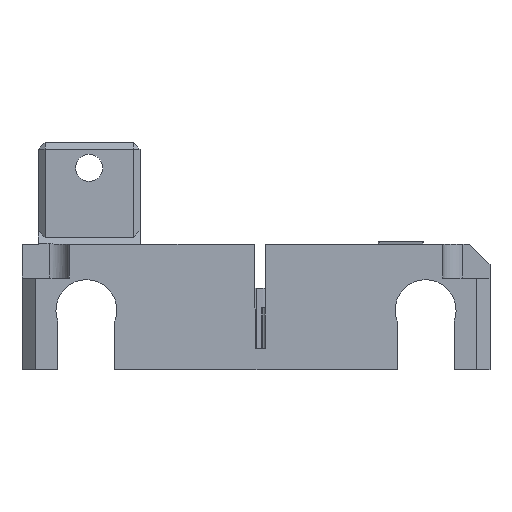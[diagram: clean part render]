
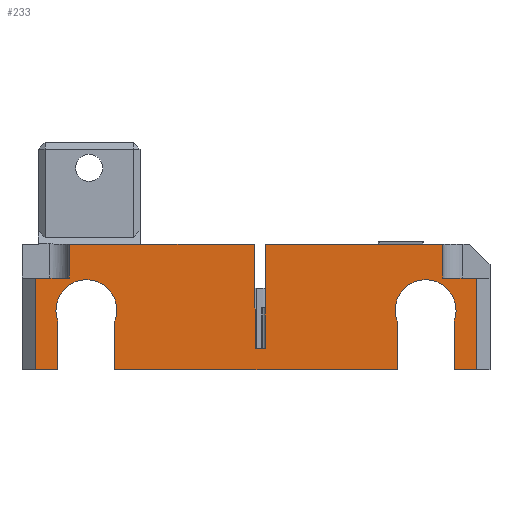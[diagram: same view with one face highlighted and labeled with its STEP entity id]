
A CAD part, left-side view. The second image highlights one B-rep face of the part: STEP entity #233.
In plain terms, the highlighted planar face has unit normal (-1, 0, 0).
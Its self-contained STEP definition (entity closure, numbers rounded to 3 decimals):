
#233=ADVANCED_FACE('',(#4371),#4373,.T.);
#4371=FACE_BOUND('',#4372,.T.);
#4372=EDGE_LOOP('',(#7640,#7641,#7642,#7643,#7644,#7645,#7646,#7647,#7648,#7649,
#7650,#7651,#7652,#7653,#7654,#7655,#7656,#7657,#7658,#7659,#7660,#7661,#7662));
#4373=PLANE('',#4374);
#4374=AXIS2_PLACEMENT_3D('',#4375,#4376,#4377);
#4375=CARTESIAN_POINT('',(-30.,30.47,-15.719));
#4376=DIRECTION('',(-1.,0.,0.));
#4377=DIRECTION('',(0.,-1.,0.));
#7640=ORIENTED_EDGE('',*,*,#10508,.F.);
#7641=ORIENTED_EDGE('',*,*,#10509,.T.);
#7642=ORIENTED_EDGE('',*,*,#10430,.F.);
#7643=ORIENTED_EDGE('',*,*,#10510,.T.);
#7644=ORIENTED_EDGE('',*,*,#10511,.T.);
#7645=ORIENTED_EDGE('',*,*,#10512,.F.);
#7646=ORIENTED_EDGE('',*,*,#10513,.T.);
#7647=ORIENTED_EDGE('',*,*,#10514,.T.);
#7648=ORIENTED_EDGE('',*,*,#10515,.T.);
#7649=ORIENTED_EDGE('',*,*,#10516,.T.);
#7650=ORIENTED_EDGE('',*,*,#10394,.T.);
#7651=ORIENTED_EDGE('',*,*,#10507,.T.);
#7652=ORIENTED_EDGE('',*,*,#10517,.T.);
#7653=ORIENTED_EDGE('',*,*,#10518,.T.);
#7654=ORIENTED_EDGE('',*,*,#10519,.T.);
#7655=ORIENTED_EDGE('',*,*,#10520,.T.);
#7656=ORIENTED_EDGE('',*,*,#10521,.T.);
#7657=ORIENTED_EDGE('',*,*,#10522,.T.);
#7658=ORIENTED_EDGE('',*,*,#10523,.F.);
#7659=ORIENTED_EDGE('',*,*,#10524,.F.);
#7660=ORIENTED_EDGE('',*,*,#10525,.F.);
#7661=ORIENTED_EDGE('',*,*,#10526,.T.);
#7662=ORIENTED_EDGE('',*,*,#10527,.T.);
#10394=EDGE_CURVE('',#11717,#11715,#11718,.T.);
#10430=EDGE_CURVE('',#11784,#11768,#11786,.T.);
#10507=EDGE_CURVE('',#11715,#11920,#11922,.F.);
#10508=EDGE_CURVE('',#11923,#11924,#11925,.F.);
#10509=EDGE_CURVE('',#11923,#11768,#11926,.F.);
#10510=EDGE_CURVE('',#11784,#11927,#11928,.F.);
#10511=EDGE_CURVE('',#11927,#11929,#11930,.T.);
#10512=EDGE_CURVE('',#11931,#11929,#11932,.T.);
#10513=EDGE_CURVE('',#11931,#11933,#11934,.T.);
#10514=EDGE_CURVE('',#11933,#11935,#11936,.F.);
#10515=EDGE_CURVE('',#11935,#11937,#11938,.F.);
#10516=EDGE_CURVE('',#11937,#11717,#11939,.F.);
#10517=EDGE_CURVE('',#11920,#11940,#11941,.F.);
#10518=EDGE_CURVE('',#11940,#11942,#11943,.F.);
#10519=EDGE_CURVE('',#11942,#11944,#11945,.T.);
#10520=EDGE_CURVE('',#11944,#11946,#11947,.T.);
#10521=EDGE_CURVE('',#11946,#11948,#11949,.T.);
#10522=EDGE_CURVE('',#11948,#11950,#11951,.F.);
#10523=EDGE_CURVE('',#11952,#11950,#11953,.T.);
#10524=EDGE_CURVE('',#11954,#11952,#11955,.T.);
#10525=EDGE_CURVE('',#11956,#11954,#11957,.T.);
#10526=EDGE_CURVE('',#11956,#11958,#11959,.F.);
#10527=EDGE_CURVE('',#11958,#11924,#11960,.F.);
#11715=VERTEX_POINT('',#13964);
#11717=VERTEX_POINT('',#13968);
#11718=LINE('',#13969,#13970);
#11768=VERTEX_POINT('',#14077);
#11784=VERTEX_POINT('',#14111);
#11786=LINE('',#14115,#14116);
#11920=VERTEX_POINT('',#14509);
#11922=LINE('',#14513,#14514);
#11923=VERTEX_POINT('',#14516);
#11924=VERTEX_POINT('',#14517);
#11925=LINE('',#14518,#14519);
#11926=LINE('',#14521,#14522);
#11927=VERTEX_POINT('',#14524);
#11928=LINE('',#14525,#14526);
#11929=VERTEX_POINT('',#14528);
#11930=LINE('',#14529,#14530);
#11931=VERTEX_POINT('',#14532);
#11932=LINE('',#14533,#14534);
#11933=VERTEX_POINT('',#14536);
#11934=LINE('',#14537,#14538);
#11935=VERTEX_POINT('',#14540);
#11936=LINE('',#14541,#14542);
#11937=VERTEX_POINT('',#14544);
#11938=CIRCLE('',#14545,4.5);
#11939=LINE('',#14549,#14550);
#11940=VERTEX_POINT('',#14552);
#11941=CIRCLE('',#14553,4.5);
#11942=VERTEX_POINT('',#14557);
#11943=LINE('',#14558,#14559);
#11944=VERTEX_POINT('',#14561);
#11945=LINE('',#14562,#14563);
#11946=VERTEX_POINT('',#14565);
#11947=LINE('',#14566,#14567);
#11948=VERTEX_POINT('',#14569);
#11949=LINE('',#14570,#14571);
#11950=VERTEX_POINT('',#14573);
#11951=LINE('',#14574,#14575);
#11952=VERTEX_POINT('',#14577);
#11953=LINE('',#14578,#14579);
#11954=VERTEX_POINT('',#14581);
#11955=LINE('',#14582,#14583);
#11956=VERTEX_POINT('',#14585);
#11957=LINE('',#14586,#14587);
#11958=VERTEX_POINT('',#14589);
#11959=LINE('',#14590,#14591);
#11960=LINE('',#14593,#14594);
#13964=CARTESIAN_POINT('',(-30.,-24.83,-15.719));
#13968=CARTESIAN_POINT('',(-30.,16.77,-15.719));
#13969=CARTESIAN_POINT('',(-30.,16.77,-15.719));
#13970=VECTOR('',#13971,1.);
#13971=DIRECTION('',(0.,-1.,0.));
#14077=CARTESIAN_POINT('',(-30.,-3.79,2.781));
#14111=CARTESIAN_POINT('',(-30.,23.47,2.781));
#14115=CARTESIAN_POINT('',(-30.,23.47,2.781));
#14116=VECTOR('',#14117,1.);
#14117=DIRECTION('',(0.,-1.,0.));
#14509=CARTESIAN_POINT('',(-30.,-24.83,-8.585));
#14513=CARTESIAN_POINT('',(-30.,-24.83,-8.585));
#14514=VECTOR('',#14515,1.);
#14515=DIRECTION('',(0.,0.,-1.));
#14516=CARTESIAN_POINT('',(-30.,-3.79,-6.619));
#14517=CARTESIAN_POINT('',(-30.,-4.03,-6.859));
#14518=CARTESIAN_POINT('',(-30.,-4.03,-6.859));
#14519=VECTOR('',#14520,1.);
#14520=DIRECTION('',(0.,0.707,0.707));
#14521=CARTESIAN_POINT('',(-30.,-3.79,2.781));
#14522=VECTOR('',#14523,1.);
#14523=DIRECTION('',(0.,0.,-1.));
#14524=CARTESIAN_POINT('',(-30.,23.47,-2.219));
#14525=CARTESIAN_POINT('',(-30.,23.47,-2.219));
#14526=VECTOR('',#14527,1.);
#14527=DIRECTION('',(0.,0.,1.));
#14528=CARTESIAN_POINT('',(-30.,28.47,-2.219));
#14529=CARTESIAN_POINT('',(-30.,23.47,-2.219));
#14530=VECTOR('',#14531,1.);
#14531=DIRECTION('',(0.,1.,0.));
#14532=CARTESIAN_POINT('',(-30.,28.47,-15.719));
#14533=CARTESIAN_POINT('',(-30.,28.47,-15.719));
#14534=VECTOR('',#14535,1.);
#14535=DIRECTION('',(0.,0.,1.));
#14536=CARTESIAN_POINT('',(-30.,25.17,-15.719));
#14537=CARTESIAN_POINT('',(-30.,28.47,-15.719));
#14538=VECTOR('',#14539,1.);
#14539=DIRECTION('',(0.,-1.,0.));
#14540=CARTESIAN_POINT('',(-30.,25.17,-8.585));
#14541=CARTESIAN_POINT('',(-30.,25.17,-8.585));
#14542=VECTOR('',#14543,1.);
#14543=DIRECTION('',(0.,0.,-1.));
#14544=CARTESIAN_POINT('',(-30.,16.77,-8.585));
#14545=AXIS2_PLACEMENT_3D('',#14546,#14547,#14548);
#14546=CARTESIAN_POINT('',(-30.,20.97,-6.969));
#14547=DIRECTION('',(-1.,0.,0.));
#14548=DIRECTION('',(0.,-0.933,-0.359));
#14549=CARTESIAN_POINT('',(-30.,16.77,-15.719));
#14550=VECTOR('',#14551,1.);
#14551=DIRECTION('',(0.,0.,1.));
#14552=CARTESIAN_POINT('',(-30.,-33.23,-8.585));
#14553=AXIS2_PLACEMENT_3D('',#14554,#14555,#14556);
#14554=CARTESIAN_POINT('',(-30.,-29.03,-6.969));
#14555=DIRECTION('',(-1.,0.,0.));
#14556=DIRECTION('',(0.,-0.933,-0.359));
#14557=CARTESIAN_POINT('',(-30.,-33.23,-15.719));
#14558=CARTESIAN_POINT('',(-30.,-33.23,-15.719));
#14559=VECTOR('',#14560,1.);
#14560=DIRECTION('',(0.,0.,1.));
#14561=CARTESIAN_POINT('',(-30.,-36.53,-15.719));
#14562=CARTESIAN_POINT('',(-30.,-33.23,-15.719));
#14563=VECTOR('',#14564,1.);
#14564=DIRECTION('',(0.,-1.,0.));
#14565=CARTESIAN_POINT('',(-30.,-36.53,-2.219));
#14566=CARTESIAN_POINT('',(-30.,-36.53,-15.719));
#14567=VECTOR('',#14568,1.);
#14568=DIRECTION('',(0.,0.,1.));
#14569=CARTESIAN_POINT('',(-30.,-31.53,-2.219));
#14570=CARTESIAN_POINT('',(-30.,-36.53,-2.219));
#14571=VECTOR('',#14572,1.);
#14572=DIRECTION('',(0.,1.,0.));
#14573=CARTESIAN_POINT('',(-30.,-31.53,2.781));
#14574=CARTESIAN_POINT('',(-30.,-31.53,2.781));
#14575=VECTOR('',#14576,1.);
#14576=DIRECTION('',(0.,0.,-1.));
#14577=CARTESIAN_POINT('',(-30.,-5.41,2.781));
#14578=CARTESIAN_POINT('',(-30.,-5.41,2.781));
#14579=VECTOR('',#14580,1.);
#14580=DIRECTION('',(0.,-1.,0.));
#14581=CARTESIAN_POINT('',(-30.,-5.41,-6.619));
#14582=CARTESIAN_POINT('',(-30.,-5.41,-6.619));
#14583=VECTOR('',#14584,1.);
#14584=DIRECTION('',(0.,0.,1.));
#14585=CARTESIAN_POINT('',(-30.,-5.41,-12.619));
#14586=CARTESIAN_POINT('',(-30.,-5.41,-12.619));
#14587=VECTOR('',#14588,1.);
#14588=DIRECTION('',(0.,0.,1.));
#14589=CARTESIAN_POINT('',(-30.,-4.03,-12.619));
#14590=CARTESIAN_POINT('',(-30.,-4.03,-12.619));
#14591=VECTOR('',#14592,1.);
#14592=DIRECTION('',(0.,-1.,0.));
#14593=CARTESIAN_POINT('',(-30.,-4.03,-6.859));
#14594=VECTOR('',#14595,1.);
#14595=DIRECTION('',(0.,0.,-1.));
